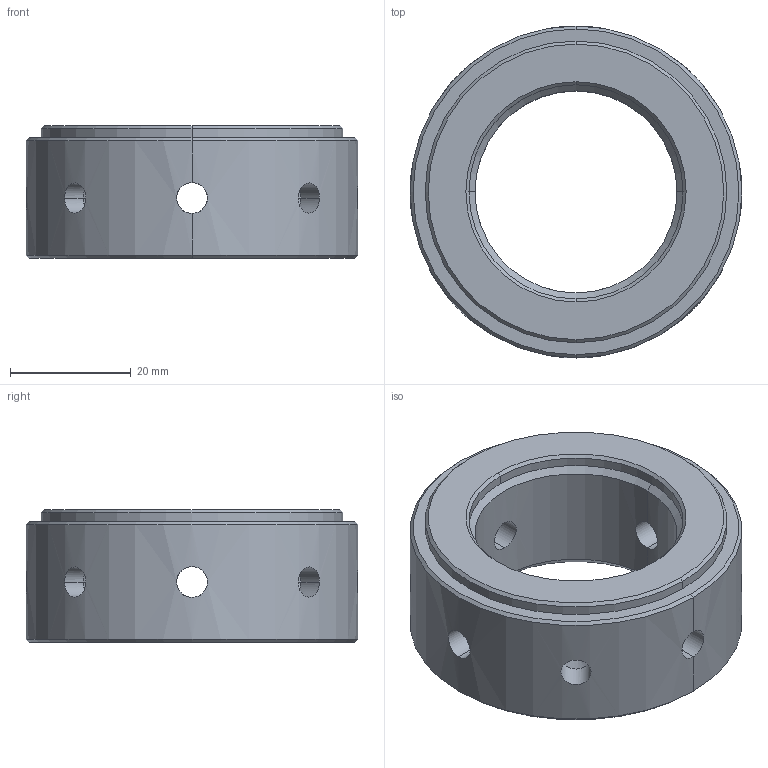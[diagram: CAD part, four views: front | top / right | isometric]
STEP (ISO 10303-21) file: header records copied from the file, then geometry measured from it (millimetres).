
FILE_DESCRIPTION (( 'STEP AP203' ), '1' );
FILE_NAME ('WBK35.STEP', '2013-01-07T05:15:18', ( '' ), ( '' ), 'SwSTEP 2.0', 'SolidWorks 2012', '' );
FILE_SCHEMA (( 'CONFIG_CONTROL_DESIGN' ));
Length unit declared in the file: millimetre
Products named in the file (1): WBK35
Bounding box: 55 x 55 x 22 mm (x, y, z)
Volume: 30020.7 mm3; surface area: 9790.4 mm2
Topology: 1 solids, 1 shells, 63 faces, 156 edges, 84 vertices
Faces by surface type: cylinder 32, cone 28, plane 3
Entity records: 2539 total; most frequent: CARTESIAN_POINT 1056, DIRECTION 296, ORIENTED_EDGE 280, EDGE_CURVE 140, AXIS2_PLACEMENT_3D 116, VERTEX_POINT 84, EDGE_LOOP 78, VECTOR 64
